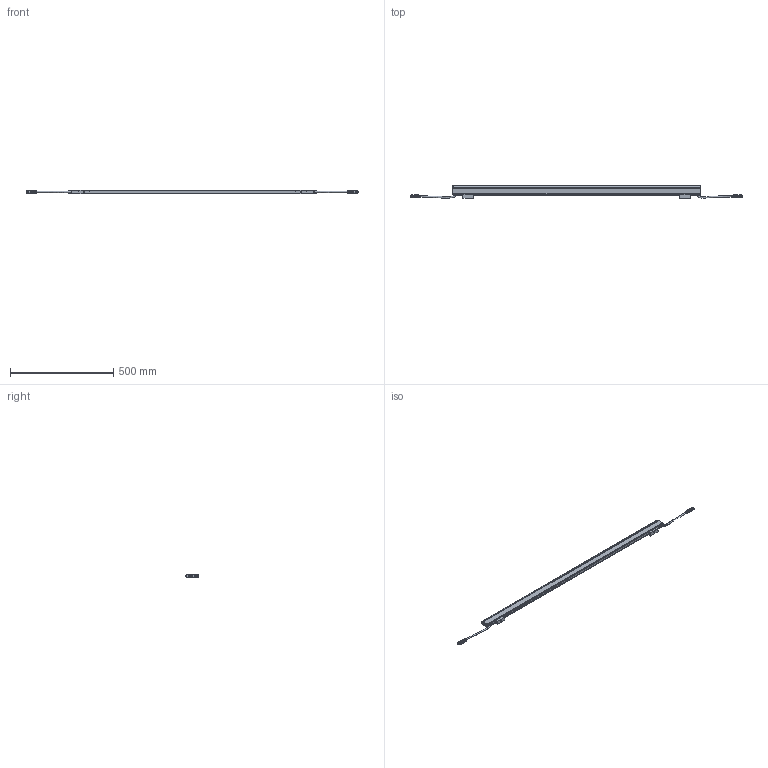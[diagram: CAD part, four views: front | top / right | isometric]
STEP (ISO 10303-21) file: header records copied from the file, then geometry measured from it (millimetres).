
FILE_DESCRIPTION (( 'STEP AP214' ), '1' );
FILE_NAME ('DiGi Linear V-Series L1200 Round.STEP', '2025-07-22T11:42:31', ( '' ), ( '' ), 'SwSTEP 2.0', 'SolidWorks 2025', '' );
FILE_SCHEMA (( 'AUTOMOTIVE_DESIGN' ));
Length unit declared in the file: millimetre
Products named in the file (7): M12 3p Male; Counter sunk screw torx_M2x6; DiGi Linear V-Series L1200 Round; DiGi Linear V-serie - Body_L1200 Round; DiGi Linear V-serie - Clip; DiGi Linear V-serie - Cabling_L1200; M12 3p Female
Assembly tree (10 placements, depth 2):
  DiGi Linear V-Series L1200 Round
    DiGi Linear V-serie - Body_L1200 Round
    DiGi Linear V-serie - Clip  x2
    M12 3p Male
    M12 3p Female
    DiGi Linear V-serie - Cabling_L1200
    Counter sunk screw torx_M2x6  x4
Bounding box: 1607.4 x 59.99 x 18.3 mm (x, y, z)
Volume: 908407.1 mm3; surface area: 185335.2 mm2
Topology: 13 solids, 13 shells, 1274 faces, 3201 edges, 2000 vertices
Faces by surface type: plane 490, cylinder 349, bspline 184, torus 163, cone 80, sphere 8
Full cylindrical faces by diameter (mm): 2 x4, 2.4 x4, 3 x4, 6.5 x6, 9.7 x1, 10 x2, 10.8 x1, 12.3 x1, 14.3 x2
Entity records: 53678 total; most frequent: CARTESIAN_POINT 17164, ORIENTED_EDGE 5778, DIRECTION 4771, EDGE_CURVE 2889, VERTEX_POINT 1816, AXIS2_PLACEMENT_3D 1797, EDGE_LOOP 1269, FACE_OUTER_BOUND 1198
